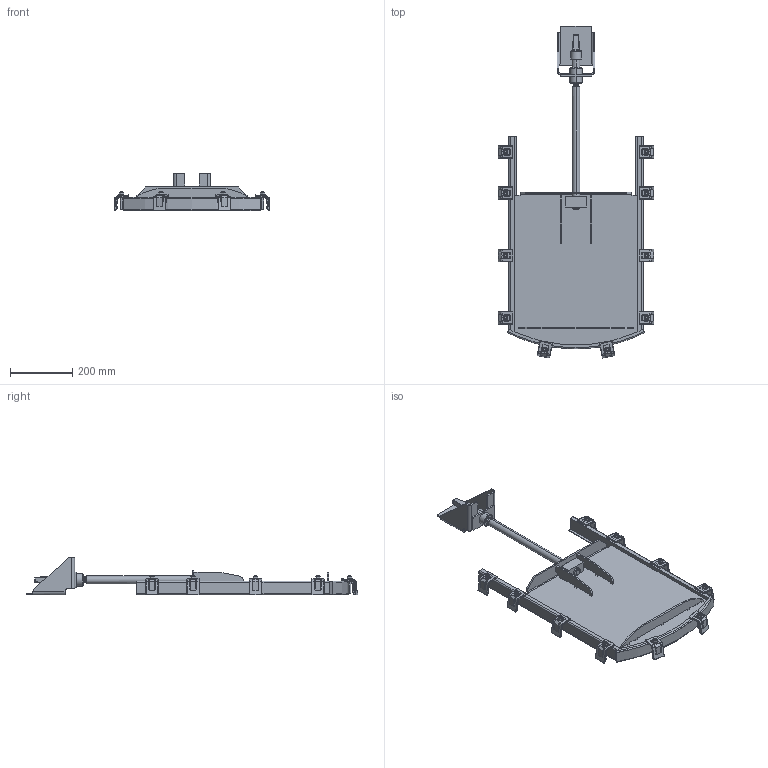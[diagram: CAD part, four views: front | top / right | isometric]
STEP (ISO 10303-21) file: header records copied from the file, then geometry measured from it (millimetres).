
FILE_DESCRIPTION (( 'STEP AP214' ), '1' );
FILE_NAME ('LW 350 gerad klemmen.STEP', '2022-05-19T05:01:40', ( '' ), ( '' ), 'SwSTEP 2.0', 'SolidWorks 2021', '' );
FILE_SCHEMA (( 'AUTOMOTIVE_DESIGN' ));
Length unit declared in the file: millimetre
Products named in the file (1): LW 350 gerad klemmen
Bounding box: 499.57 x 1064.08 x 121 mm (x, y, z)
Volume: 3359218 mm3; surface area: 987108.3 mm2
Topology: 1 solids, 1 shells, 1571 faces, 3686 edges, 2052 vertices
Faces by surface type: cylinder 615, plane 442, cone 146, sphere 138, torus 128, bspline 102
Entity records: 65679 total; most frequent: CARTESIAN_POINT 13924, DIRECTION 7490, ORIENTED_EDGE 7084, EDGE_CURVE 3542, AXIS2_PLACEMENT_3D 2990, VERTEX_POINT 2032, EDGE_LOOP 1664, UNCERTAINTY_MEASURE_WITH_UNIT 1574
